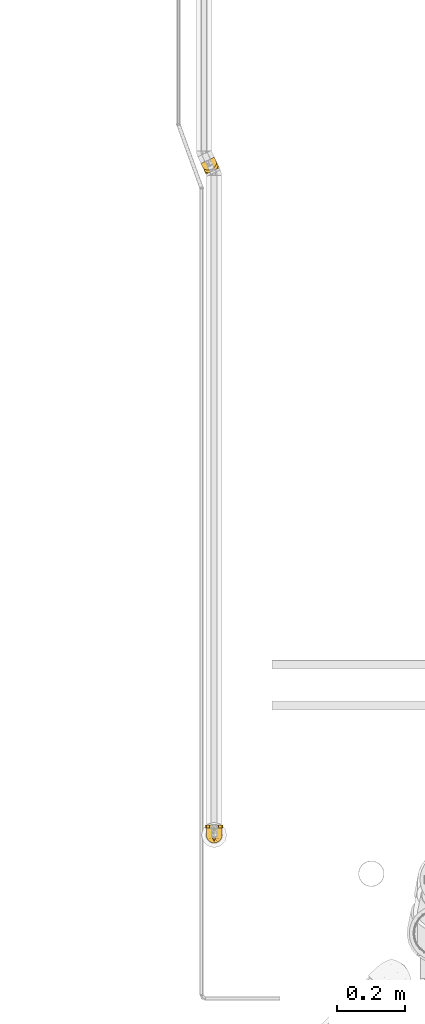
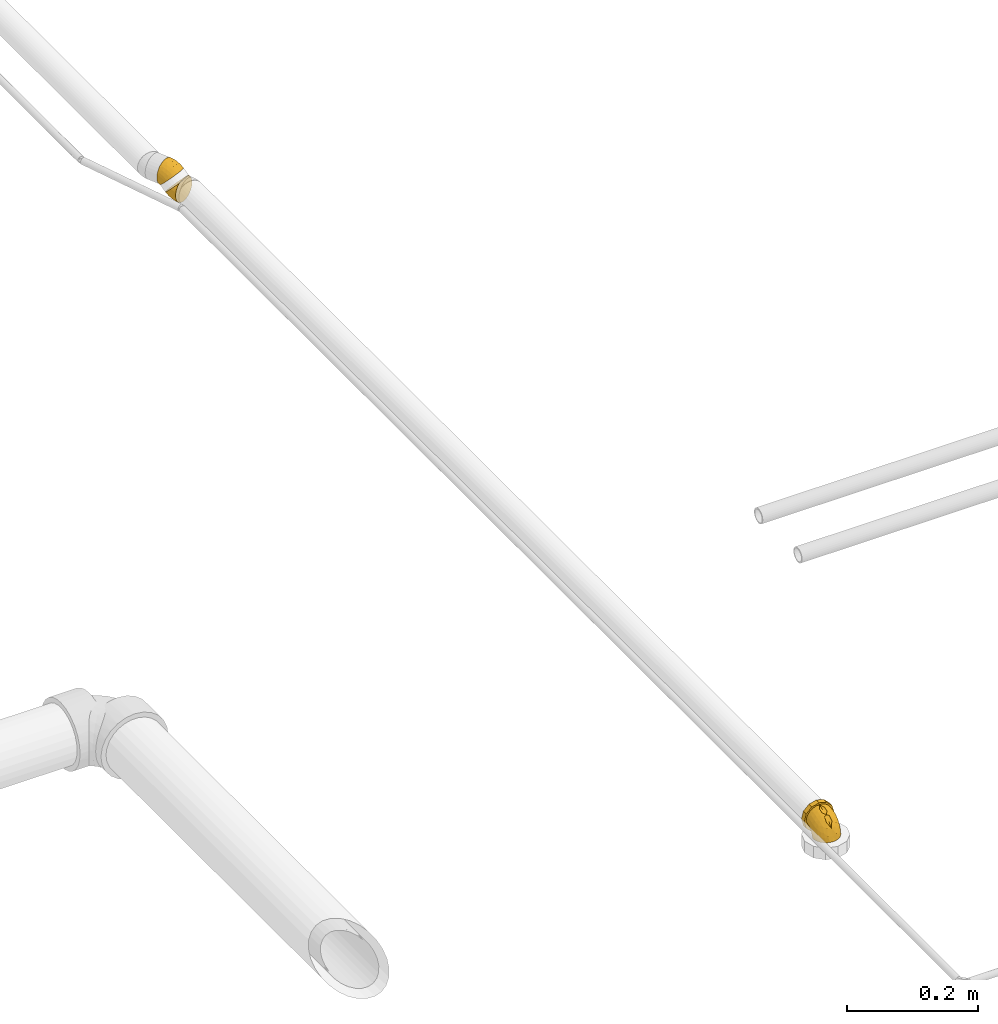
# One storey, part 41 of 156: 4 coverings.
"""IFC2X3 building model written with IfcOpenShell, lengths in millimetres."""

import ifcopenshell
import ifcopenshell.guid

model = None  # the IFC model being written
_history = None  # IfcOwnerHistory: only IFC2X3 demands one
_inside = {}  # id of a spatial element -> (the spatial element, [elements in it])
_under = {}  # id of a project, library or spatial element -> (it, [spatial elements below it])
_declared = {}  # id of a project -> (the project, [libraries it declares])
_typed = {}  # id of a type object -> (the type object, [elements of that type])
_made_of = {}  # id of a material, layer set ... -> (it, [elements and type objects made of it])


def new_model(schema):
    """Start an empty IFC model of exactly this schema.

    Asked for "IFC4X3", IfcOpenShell would pick the latest addendum, in which some entities
    have other attributes; the version numbers below select the first issue.
    IFC2X3 requires an IfcOwnerHistory on every rooted entity: one is made here for all.
    """
    global model, _history
    if schema == "IFC4X3":
        model = ifcopenshell.file(schema_version=(4, 3, 0, 0))
    else:
        model = ifcopenshell.file(schema=schema)
    _inside.clear()
    _under.clear()
    _declared.clear()
    _typed.clear()
    _made_of.clear()
    _history = None
    if model.schema == "IFC2X3":
        org = make("IfcOrganization", Name="unknown")
        user = make(
            "IfcPersonAndOrganization",
            ThePerson=make("IfcPerson", FamilyName="unknown"),
            TheOrganization=org,
        )
        app = make(
            "IfcApplication",
            ApplicationDeveloper=org,
            Version="unknown",
            ApplicationFullName="unknown",
            ApplicationIdentifier="unknown",
        )
        _history = make(
            "IfcOwnerHistory",
            OwningUser=user,
            OwningApplication=app,
            ChangeAction="ADDED",
            CreationDate=0,
        )
    return model


def make(cls, **values):
    """One entity of the class cls with the attributes given. An attribute that is None is left unset."""
    return model.create_entity(
        cls, **{name: value for name, value in values.items() if value is not None}
    )


def entity(cls, *values):
    """Any entity or typed value of the class cls, its attributes in the order of the schema. None: left unset."""
    e = model.create_entity(cls)
    for i, value in enumerate(values):
        if value is not None:
            e[i] = value
    return e


def rooted(cls, **values):
    """An entity with a GlobalId (a new one), such as an element, a storey or a relation."""
    return make(cls, GlobalId=ifcopenshell.guid.new(), OwnerHistory=_history, **values)


def si_unit(unit_type, name, prefix=None):
    """IfcSIUnit, for example si_unit("LENGTHUNIT", "METRE", prefix="MILLI")."""
    return make("IfcSIUnit", UnitType=unit_type, Prefix=prefix, Name=name)


def converted_unit(unit_type, name, factor, base, dimensions=None, offset=None):
    """IfcConversionBasedUnit, such as the inch: factor (a typed value) times the base unit."""
    return make(
        "IfcConversionBasedUnit"
        if offset is None
        else "IfcConversionBasedUnitWithOffset",
        ConversionOffset=offset,
        Dimensions=None
        if dimensions is None
        else entity("IfcDimensionalExponents", *dimensions),
        UnitType=unit_type,
        Name=name,
        ConversionFactor=make(
            "IfcMeasureWithUnit", ValueComponent=factor, UnitComponent=base
        ),
    )


def derived_unit(unit_type, elements):
    """IfcDerivedUnit: a product of units, each with its exponent."""
    return make(
        "IfcDerivedUnit",
        Elements=[
            make("IfcDerivedUnitElement", Unit=unit, Exponent=power)
            for unit, power in elements
        ],
        UnitType=unit_type,
    )


def assignment(units):
    """IfcUnitAssignment: the units of a project."""
    return None if units is None else make("IfcUnitAssignment", Units=units)


def point(xyz):
    """IfcCartesianPoint."""
    return None if xyz is None else make("IfcCartesianPoint", Coordinates=xyz)


def direction(xyz):
    """IfcDirection."""
    return None if xyz is None else make("IfcDirection", DirectionRatios=xyz)


def frame(location, z_axis=None, x_axis=None):
    """IfcAxis2Placement3D, a coordinate frame: its origin and axes. An axis left out is left unset."""
    return make(
        "IfcAxis2Placement3D",
        Location=point(location),
        Axis=direction(z_axis),
        RefDirection=direction(x_axis),
    )


def origin_with_axes():
    """The frame at (0, 0, 0) with the z axis (0, 0, 1) and the x axis (1, 0, 0) written out."""
    return frame((0.0, 0.0, 0.0), z_axis=(0.0, 0.0, 1.0), x_axis=(1.0, 0.0, 0.0))


def place(relative_to, where):
    """IfcLocalPlacement: puts the frame where relative to a parent placement (None: the world)."""
    return make(
        "IfcLocalPlacement", PlacementRelTo=relative_to, RelativePlacement=where
    )


def context(
    kind, dimensions, precision=None, world=None, true_north=None, identifier=None
):
    """IfcGeometricRepresentationContext, for example the 3D "Model" context."""
    return make(
        "IfcGeometricRepresentationContext",
        ContextIdentifier=identifier,
        ContextType=kind,
        CoordinateSpaceDimension=dimensions,
        Precision=precision,
        WorldCoordinateSystem=world,
        TrueNorth=true_north,
    )


def subcontext(parent, identifier, kind, view, scale=None):
    """IfcGeometricRepresentationSubContext, for example "Body" below "Model"."""
    return make(
        "IfcGeometricRepresentationSubContext",
        ContextIdentifier=identifier,
        ContextType=kind,
        ParentContext=parent,
        TargetScale=scale,
        TargetView=view,
    )


def project(units=None, contexts=None):
    """IfcProject with its units and contexts."""
    return rooted(
        "IfcProject",
        Name="project",
        RepresentationContexts=contexts,
        UnitsInContext=assignment(units),
    )


def spatial(cls, under=None, at=None, **own):
    """A site, building, storey or space (cls), placed at a placement, below another one or the project."""
    s = rooted(cls, ObjectPlacement=at, **own)
    if under is not None:
        _under.setdefault(under.id(), (under, []))[1].append(s)
    return s


def faces_of(points, faces, orient=None, outer=None):
    """IfcFace entities. A face is a list of loops; a loop is a list of indices into points, from 0.

    orient and outer hold one flag for each loop. By default every Orientation is true, the
    first loop of a face is its IfcFaceOuterBound and the others are IfcFaceBound.
    """
    made = []
    for i, loops in enumerate(faces):
        bounds = []
        for j, loop in enumerate(loops):
            is_outer = j == 0 if outer is None else outer[i][j]
            bounds.append(
                make(
                    "IfcFaceOuterBound" if is_outer else "IfcFaceBound",
                    Bound=make("IfcPolyLoop", Polygon=[points[k] for k in loop]),
                    Orientation=True if orient is None else orient[i][j],
                )
            )
        made.append(make("IfcFace", Bounds=bounds))
    return made


def open_shell(faces, orient=None, outer=None):
    """The faces of one IfcOpenShell. surface_model builds it on its shared points."""
    return ("IfcOpenShell", faces, orient, outer)


def surface_model(cls, points, shells):
    """IfcFaceBasedSurfaceModel or IfcShellBasedSurfaceModel (cls): surfaces that need not close."""
    shared = [point(p) for p in points]
    made = [make(c, CfsFaces=faces_of(shared, fs, o, b)) for c, fs, o, b in shells]
    if cls == "IfcFaceBasedSurfaceModel":
        return make(cls, FbsmFaces=made)
    return make(cls, SbsmBoundary=made)


def shape(context_of_items, identifier, shape_type, items):
    """IfcShapeRepresentation: the items that make up one representation, for example the "Body"."""
    return make(
        "IfcShapeRepresentation",
        ContextOfItems=context_of_items,
        RepresentationIdentifier=identifier,
        RepresentationType=shape_type,
        Items=items,
    )


def source(mapping_origin, context_of_items, identifier, shape_type, items):
    """IfcRepresentationMap: a shape defined once, which mapped items show again and again."""
    return make(
        "IfcRepresentationMap",
        MappingOrigin=mapping_origin,
        MappedRepresentation=shape(context_of_items, identifier, shape_type, items),
    )


def transform(
    local_origin,
    x_axis=None,
    y_axis=None,
    z_axis=None,
    scale=None,
    scale2=None,
    scale3=None,
    uniform=True,
):
    """IfcCartesianTransformationOperator3D, or its non-uniform kind. x_axis, y_axis, z_axis: its Axis1, 2, 3."""
    if uniform:
        return make(
            "IfcCartesianTransformationOperator3D",
            Axis1=direction(x_axis),
            Axis2=direction(y_axis),
            LocalOrigin=point(local_origin),
            Scale=scale,
            Axis3=direction(z_axis),
        )
    return make(
        "IfcCartesianTransformationOperator3DnonUniform",
        Axis1=direction(x_axis),
        Axis2=direction(y_axis),
        LocalOrigin=point(local_origin),
        Scale=scale,
        Axis3=direction(z_axis),
        Scale2=scale2,
        Scale3=scale3,
    )


def mapped(mapping_source, mapping_target):
    """IfcMappedItem: shows the shape of a source again, moved by a transform."""
    return make(
        "IfcMappedItem", MappingSource=mapping_source, MappingTarget=mapping_target
    )


def made_of(thing, what):
    """Note that an element or type object is made of a material, layer set ...; save() writes the relation."""
    if what is not None:
        _made_of.setdefault(what.id(), (what, []))[1].append(thing)
    return thing


def element(
    cls,
    number,
    at=None,
    inside=None,
    cuts=None,
    type_object=None,
    material=None,
    context=None,
    identifier="Body",
    shape_type=None,
    held_by="IfcProductDefinitionShape",
    body=None,
    shapes=None,
    **own,
):
    """One element of the class cls, such as IfcWall. Its Tag is "e" and its number.

    at: its placement. inside: the storey or other place that contains it. cuts: it is an
    opening in that element (IfcRelVoidsElement). A single representation is given by context,
    identifier, shape_type and body (its items); several are given by shapes. held_by: the class
    of the entity that holds the representations. save() writes the other relations.
    """
    e = rooted(cls, Tag="e%d" % number, ObjectPlacement=at, **own)
    if body is not None:
        shapes = [shape(context, identifier, shape_type, body)]
    if shapes is not None:
        e.Representation = make(held_by, Representations=shapes)
    if inside is not None:
        _inside.setdefault(inside.id(), (inside, []))[1].append(e)
    if cuts is not None:
        rooted(
            "IfcRelVoidsElement", RelatingBuildingElement=cuts, RelatedOpeningElement=e
        )
    if type_object is not None:
        _typed.setdefault(type_object.id(), (type_object, []))[1].append(e)
    return made_of(e, material)


def aggregate(whole, parts):
    """IfcRelAggregates: a whole, such as a stair, and the parts it consists of."""
    return rooted("IfcRelAggregates", RelatingObject=whole, RelatedObjects=parts)


def save(model, path):
    """Write the relations noted so far, then the file.

    IfcRelAggregates (storeys below a building ...), IfcRelContainedInSpatialStructure (elements
    in a storey), IfcRelDefinesByType, IfcRelAssociatesMaterial and IfcRelDeclares: one each for
    every whole, place, type object, material and project.
    """
    for whole, parts in _under.values():
        aggregate(whole, parts)
    for where, things in _inside.values():
        rooted(
            "IfcRelContainedInSpatialStructure",
            RelatedElements=things,
            RelatingStructure=where,
        )
    for kind, things in _typed.values():
        rooted("IfcRelDefinesByType", RelatedObjects=things, RelatingType=kind)
    for what, things in _made_of.values():
        rooted("IfcRelAssociatesMaterial", RelatedObjects=things, RelatingMaterial=what)
    for by, libraries in _declared.values():
        rooted("IfcRelDeclares", RelatingContext=by, RelatedDefinitions=libraries)
    model.write(path)


model = new_model("IFC2X3")

# Units and contexts
model_context = context("Model", 3, precision=0.01, world=frame((0.0, 4.29681676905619e-09, 0.0)), true_north=direction((4.01073788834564e-13, 1.0)))
plan_context = context("Plan", 3, precision=0.01, world=frame((0.0, 4.29681676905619e-09, 0.0)), true_north=direction((4.01073788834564e-13, 1.0)))
body_context = subcontext(model_context, "Body", "Model", "MODEL_VIEW")
ifc_project = project(units=[converted_unit("PLANEANGLEUNIT", "DEGREE", entity("IfcPositiveLengthMeasure", 0.0174532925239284), si_unit("PLANEANGLEUNIT", "RADIAN"), dimensions=[0, 0, 0, 0, 0, 0, 0]), si_unit("AREAUNIT", "SQUARE_METRE"), si_unit("LENGTHUNIT", "METRE", prefix="MILLI"), si_unit("MASSUNIT", "GRAM", prefix="KILO"), si_unit("POWERUNIT", "WATT"), si_unit("PRESSUREUNIT", "PASCAL", prefix="KILO"), si_unit("FORCEUNIT", "NEWTON", prefix="KILO"), si_unit("ELECTRICVOLTAGEUNIT", "VOLT"), si_unit("ELECTRICCURRENTUNIT", "AMPERE"), si_unit("THERMODYNAMICTEMPERATUREUNIT", "DEGREE_CELSIUS"), si_unit("TIMEUNIT", "SECOND"), si_unit("VOLUMEUNIT", "CUBIC_METRE"), derived_unit("LINEARVELOCITYUNIT", [(si_unit("LENGTHUNIT", "METRE"), 1), (si_unit("TIMEUNIT", "SECOND"), -1)]), derived_unit("VOLUMETRICFLOWRATEUNIT", [(si_unit("VOLUMEUNIT", "CUBIC_METRE"), 1), (si_unit("TIMEUNIT", "SECOND"), -1)]), derived_unit("THERMALTRANSMITTANCEUNIT", [(si_unit("POWERUNIT", "WATT"), 1), (si_unit("THERMODYNAMICTEMPERATUREUNIT", "KELVIN"), -1), (si_unit("AREAUNIT", "SQUARE_METRE"), -1)]), derived_unit("SOUNDPRESSUREUNIT", [(si_unit("PRESSUREUNIT", "PASCAL"), 1)])], contexts=[model_context, plan_context])

# Site, building, storey
site_placement = place(None, frame((0.0, -4.29681676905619e-09, 0.0), z_axis=(0.0, 0.0, 1.0), x_axis=(1.0, 0.0, 0.0)))
site = spatial("IfcSite", under=ifc_project, at=site_placement, CompositionType="ELEMENT")
building_placement = place(site_placement, frame((0.0, 4.29681676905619e-09, 0.0), z_axis=(0.0, 0.0, 1.0), x_axis=(1.0, 0.0, 0.0)))
building = spatial("IfcBuilding", under=site, at=building_placement, Name="mc-building", CompositionType="ELEMENT")
storey_placement = place(building_placement, frame((0.0, 0.0, 205200.0), z_axis=(0.0, 0.0, 1.0), x_axis=(1.0, 0.0, 0.0)))
storey = spatial("IfcBuildingStorey", under=building, at=storey_placement, Name="Nivå D + 1,2 m", CompositionType="ELEMENT", Elevation=205200.0)

# Coverings
shared_shape_1 = source(origin_with_axes(), body_context, "Body", "SurfaceModel", [
    surface_model("IfcShellBasedSurfaceModel", [(-20.0, -19.91858, -11.5), (-9.26874, -19.82887, -8.80172), (-20.0, -22.21629, -5.95284), (-20.0, -5.95284, -22.21629), (-20.0, 0.0, -23.0), (-16.41496, 1.48497, -23.0), (-13.65468, -8.09405, -21.24923), (-20.0, -11.5, -19.91858), (-12.89249, -3.31489, -22.58022), (-6.70085, -5.54744, -21.24923), (-9.3934, 4.3934, -23.0), (-8.40397, -1.53584, -22.56356), (-12.92893, 2.92893, -23.0), (-2.33645, -9.57007, -17.8989), (1.35107, -2.02224, -20.37356), (5.84944, -5.42872, -16.26656), (-3.71295, -19.32042, -4.47672), (1.5, -17.23909, 0.0), (-9.25, -20.11955, 0.0), (20.72054, 20.0, -9.98295), (22.42276, 20.0, -5.12054), (20.38887, 9.59257, -7.59956), (-11.15428, -12.83072, -18.24713), (-20.0, -16.26346, -16.26346), (-13.27207, -17.65073, -14.00151), (-5.21752, -15.27493, -14.00151), (6.72059, 13.11537, -21.71042), (2.06499, 5.74718, -22.12945), (-2.96995, 12.82991, -23.0), (9.976, 20.0, -20.72389), (5.11506, 20.0, -22.42401), (-1.48497, 16.41496, -23.0), (12.00789, 2.96118, -16.26638), (15.11355, 10.95279, -16.26656), (16.15527, 4.16125, -12.24034), (9.52462, 7.06609, -19.47678), (11.64594, 13.87434, -19.47678), (18.75309, 12.4988, -12.24034), (-3.86672, 0.34155, -22.34959), (23.0, 20.0, 0.0), (20.80941, 11.8246, 0.0), (15.88875, -1.81723, -6.70843), (17.97933, 20.0, -14.34377), (14.33692, 20.0, -17.98479), (17.23909, -1.5, 0.0), (10.27929, -9.80283, -4.83613), (9.36955, -9.36955, 0.0), (3.4817, -15.56953, -4.15613), (6.95273, 0.5358, -18.80266), (-5.85786, 5.85786, -23.0), (-4.41391, 9.34389, -23.0), (4.11805, -10.73731, -12.85831), (-1.85567, -17.19368, -8.47054), (-11.96561, -21.82224, -4.33914), (10.9026, -5.13731, -11.64298), (0.0, 20.0, -23.0), (-20.0, -23.0, 0.0), (4.93916, -13.17241, -8.16625), (9.52866, 7.05791, 19.47239), (6.72603, 13.11124, 21.70822), (2.06199, 5.73763, 22.12869), (-11.96559, -21.82223, 4.33915), (-9.27214, -19.82979, 8.80172), (-1.85696, -17.19344, 8.47251), (-5.22647, -15.27868, 14.00151), (-13.27736, -17.65168, 14.00151), (6.95709, 0.52669, 18.79641), (1.35532, -2.02495, 20.37099), (-2.96995, 12.82991, 23.0), (-1.48497, 16.41496, 23.0), (-3.86491, 0.33933, 22.34889), (-8.54552, -1.16592, 22.63764), (-6.70085, -5.54744, 21.24923), (12.01274, 2.95786, 16.26053), (15.11892, 10.9488, 16.26035), (-20.0, -16.26346, 16.26346), (-11.15708, -12.83147, 18.24713), (-20.0, -11.5, 19.91858), (-20.0, -19.91858, 11.5), (-20.0, -22.21629, 5.95284), (16.15651, 4.15314, 12.23336), (18.75664, 12.49407, 12.23336), (-13.65468, -8.09405, 21.24923), (-20.0, -5.95284, 22.21629), (11.65224, 13.87011, 19.47239), (14.34377, 20.0, 17.97933), (-2.34066, -9.57555, 17.89684), (15.89516, -1.80999, 6.70281), (20.39055, 9.59026, 7.59326), (-16.41496, 1.48497, 23.0), (-20.0, 0.0, 23.0), (17.98479, 20.0, 14.33692), (22.42401, 20.0, 5.11506), (20.72389, 20.0, 9.976), (9.98295, 20.0, 20.72054), (5.12054, 20.0, 22.42276), (-12.89249, -3.31489, 22.58022), (-12.92893, 2.92893, 23.0), (10.90001, -5.14849, 11.63438), (-5.85786, 5.85786, 23.0), (-4.41391, 9.34389, 23.0), (-9.3934, 4.3934, 23.0), (-3.713, -19.32031, 4.47735), (4.93959, -13.17105, 8.16843), (3.48351, -15.56815, 4.15698), (10.28307, -9.79842, 4.83801), (4.1258, -10.73605, 12.85269), (0.0, 20.0, 23.0), (5.84416, -5.44293, 16.26036)], [open_shell([[[0, 1, 2]], [[3, 4, 5]], [[6, 7, 3]], [[6, 8, 9]], [[10, 11, 12]], [[13, 14, 15]], [[16, 17, 18]], [[19, 20, 21]], [[22, 23, 7]], [[23, 24, 0]], [[0, 24, 1]], [[22, 25, 24]], [[26, 27, 28]], [[29, 26, 30]], [[26, 31, 30]], [[32, 33, 34]], [[25, 22, 13]], [[35, 36, 33]], [[21, 37, 19]], [[29, 36, 26]], [[27, 14, 38]], [[20, 39, 40]], [[35, 33, 32]], [[34, 21, 41]], [[42, 19, 37]], [[33, 43, 42]], [[21, 44, 41]], [[37, 33, 42]], [[45, 44, 46]], [[34, 37, 21]], [[16, 47, 17]], [[36, 29, 43]], [[20, 40, 21]], [[27, 26, 35]], [[44, 21, 40]], [[32, 48, 35]], [[27, 49, 50]], [[6, 22, 7]], [[13, 15, 51]], [[25, 51, 52]], [[1, 16, 53]], [[15, 54, 51]], [[54, 34, 41]], [[46, 47, 45]], [[54, 15, 32]], [[31, 26, 28]], [[31, 55, 30]], [[2, 53, 56]], [[33, 37, 34]], [[33, 36, 43]], [[26, 36, 35]], [[5, 8, 3]], [[22, 6, 9]], [[22, 9, 13]], [[14, 13, 9]], [[9, 8, 11]], [[48, 27, 35]], [[45, 54, 41]], [[47, 46, 17]], [[51, 54, 57]], [[8, 5, 12]], [[38, 10, 49]], [[3, 8, 6]], [[38, 9, 11]], [[12, 11, 8]], [[9, 38, 14]], [[53, 16, 18]], [[52, 16, 1]], [[56, 53, 18]], [[1, 53, 2]], [[54, 32, 34]], [[48, 15, 14]], [[15, 48, 32]], [[27, 48, 14]], [[52, 51, 57]], [[13, 51, 25]], [[22, 24, 23]], [[1, 24, 25]], [[25, 52, 1]], [[47, 52, 57]], [[52, 47, 16]], [[47, 57, 45]], [[54, 45, 57]], [[44, 45, 41]], [[49, 27, 38]], [[50, 28, 27]], [[10, 38, 11]], [[58, 59, 60]], [[56, 18, 61]], [[62, 63, 64]], [[62, 64, 65]], [[66, 60, 67]], [[68, 59, 69]], [[70, 71, 72]], [[73, 74, 58]], [[75, 76, 77]], [[78, 79, 62]], [[74, 80, 81]], [[82, 83, 77]], [[84, 74, 85]], [[64, 86, 76]], [[87, 44, 88]], [[83, 89, 90]], [[74, 91, 85]], [[40, 88, 44]], [[75, 78, 65]], [[88, 92, 93]], [[40, 39, 92]], [[59, 94, 95]], [[94, 84, 85]], [[96, 97, 89]], [[73, 80, 74]], [[98, 87, 80]], [[75, 65, 76]], [[67, 72, 86]], [[81, 88, 93]], [[84, 59, 58]], [[60, 59, 68]], [[93, 91, 81]], [[88, 80, 87]], [[59, 95, 69]], [[40, 92, 88]], [[99, 60, 100]], [[70, 101, 71]], [[18, 17, 102]], [[102, 63, 62]], [[103, 104, 105]], [[106, 103, 98]], [[64, 106, 86]], [[82, 76, 72]], [[80, 73, 98]], [[46, 105, 104]], [[95, 107, 69]], [[18, 102, 61]], [[74, 81, 91]], [[88, 81, 80]], [[59, 84, 94]], [[74, 84, 58]], [[76, 82, 77]], [[96, 83, 82]], [[67, 86, 108]], [[87, 105, 44]], [[72, 76, 86]], [[108, 73, 66]], [[60, 99, 70]], [[106, 98, 108]], [[105, 98, 103]], [[70, 72, 67]], [[83, 96, 89]], [[72, 96, 82]], [[101, 70, 99]], [[96, 71, 97]], [[60, 70, 67]], [[104, 102, 17]], [[61, 62, 79]], [[62, 61, 102]], [[56, 61, 79]], [[66, 73, 58]], [[98, 73, 108]], [[60, 66, 58]], [[108, 66, 67]], [[86, 106, 108]], [[63, 106, 64]], [[62, 65, 78]], [[76, 65, 64]], [[46, 104, 17]], [[63, 104, 103]], [[44, 105, 46]], [[98, 105, 87]], [[104, 63, 102]], [[63, 103, 106]], [[60, 68, 100]], [[97, 71, 101]], [[72, 71, 96]]])]),
])
covering_1_placement = place(storey_placement, frame((323623.87367, 464546.93316, 4190.50902999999), z_axis=(1.0, 0.0, 0.0), x_axis=(0.0, -1.0, 0.0)))
element("IfcCovering", 1, at=covering_1_placement, inside=storey, Name="BI15T - Cellegummi KV 15mm", PredefinedType="INSULATION", context=body_context, shape_type="MappedRepresentation", body=[
    mapped(shared_shape_1, transform((0.0, 0.0, 0.0), scale=1.0)),
])
shared_shape_2 = source(origin_with_axes(), body_context, "Body", "SurfaceModel", [
    surface_model("IfcShellBasedSurfaceModel", [(8.8, 0.0, 26.4), (8.8, -13.2, 22.86307), (8.8, -22.86307, 13.2), (8.8, -13.2, -22.86307), (8.8, 13.2, 22.86307), (8.8, 22.86307, 13.2), (8.8, 26.4, 0.0), (8.8, -26.4, 0.0), (8.8, 22.86307, -13.2), (8.8, 0.0, -26.4), (8.8, 13.2, -22.86307), (8.8, -22.86307, -13.2), (0.0, -13.2, 22.86307), (0.0, 0.0, 26.4), (0.0, 13.2, 22.86307), (0.0, -13.2, -22.86307), (0.0, -22.86307, 13.2), (0.0, -26.4, 0.0), (0.0, 22.86307, 13.2), (0.0, 26.4, 0.0), (0.0, 22.86307, -13.2), (0.0, 13.2, -22.86307), (0.0, -22.86307, -13.2), (0.0, 0.0, -26.4), (0.0, 24.63154, 6.6), (8.8, 24.96546, 5.35378), (0.0, 18.03154, 18.03154), (8.8, 6.6, 24.63154), (0.0, 5.35378, 24.96546), (8.8, 18.03154, 18.03154), (0.0, -6.6, 24.63154), (8.8, -5.35378, 24.96546), (0.0, -18.03154, 18.03154), (8.8, -24.63154, 6.6), (0.0, -24.96546, 5.35378), (8.8, -18.03154, 18.03154), (0.0, -24.63154, -6.6), (8.8, -24.96546, -5.35378), (0.0, -18.03154, -18.03154), (8.8, -6.6, -24.63154), (0.0, -5.35378, -24.96546), (8.8, -18.03154, -18.03154), (0.0, 6.6, -24.63154), (8.8, 5.35378, -24.96546), (0.0, 18.03154, -18.03154), (8.8, 24.63154, -6.6), (0.0, 24.96546, -5.35378), (8.8, 18.03154, -18.03154)], [open_shell([[[0, 1, 2]], [[2, 3, 0]], [[0, 3, 4]], [[5, 4, 6]], [[3, 2, 7]], [[4, 3, 8]], [[8, 3, 9]], [[8, 6, 4]], [[8, 9, 10]], [[7, 11, 3]], [[12, 13, 14]], [[14, 15, 12]], [[16, 15, 17]], [[12, 15, 16]], [[14, 18, 19]], [[14, 20, 15]], [[15, 20, 21]], [[15, 22, 17]], [[15, 21, 23]], [[14, 19, 20]], [[5, 24, 18]], [[19, 25, 6]], [[25, 19, 24]], [[4, 26, 14]], [[14, 27, 4]], [[27, 14, 28]], [[26, 4, 29]], [[28, 0, 27]], [[29, 5, 18]], [[29, 18, 26]], [[28, 13, 0]], [[5, 25, 24]], [[1, 30, 12]], [[13, 31, 0]], [[31, 13, 30]], [[2, 32, 16]], [[16, 33, 2]], [[33, 16, 34]], [[32, 2, 35]], [[34, 7, 33]], [[35, 1, 12]], [[35, 12, 32]], [[34, 17, 7]], [[1, 31, 30]], [[11, 36, 22]], [[17, 37, 7]], [[37, 17, 36]], [[3, 38, 15]], [[15, 39, 3]], [[39, 15, 40]], [[38, 3, 41]], [[40, 9, 39]], [[41, 11, 22]], [[41, 22, 38]], [[40, 23, 9]], [[11, 37, 36]], [[10, 42, 21]], [[23, 43, 9]], [[43, 23, 42]], [[8, 44, 20]], [[20, 45, 8]], [[45, 20, 46]], [[44, 8, 47]], [[46, 6, 45]], [[47, 10, 21]], [[47, 21, 44]], [[46, 19, 6]], [[10, 43, 42]]])]),
])
covering_2_placement = place(storey_placement, frame((323623.87367, 464566.93316, 4190.50902999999), z_axis=(0.0, 0.0, 1.0), x_axis=(0.0, 1.0, 0.0)))
element("IfcCovering", 2, at=covering_2_placement, inside=storey, Name="BI15T - Cellegummi KV 15mm", PredefinedType="INSULATION", context=body_context, shape_type="MappedRepresentation", body=[
    mapped(shared_shape_2, transform((0.0, 0.0, 0.0), scale=1.0)),
])
shared_shape_3 = source(origin_with_axes(), body_context, "Body", "SurfaceModel", [
    surface_model("IfcShellBasedSurfaceModel", [(-7.45584, 17.87261, -12.82848), (-7.45584, 14.36004, -16.66701), (-7.45584, 5.16662, -21.38472), (-7.45584, 0.0, 22.0), (-7.45584, 10.04424, -19.57328), (-7.45584, -21.25037, -5.69402), (-7.45584, 14.36004, 16.66701), (-7.45584, 17.87261, 12.82848), (-7.45584, 10.04424, 19.57328), (-7.45584, 5.16662, 21.38472), (-7.45584, 0.0, -22.0), (-7.45584, -5.69402, -21.25037), (-7.45584, -11.0, -19.05256), (-7.45584, -15.55635, -15.55635), (-7.45584, -19.05256, -11.0), (-7.45584, -11.0, 19.05256), (-7.45584, -19.05256, 11.0), (-7.45584, -15.55635, 15.55635), (-7.45584, -5.69402, 21.25037), (-7.45584, -21.25037, 5.69402), (-7.45584, -22.0, 0.0), (1.61873, 8.92543, -21.38472), (-4.882, 15.42616, -16.66701), (-7.36577, 17.90992, -12.82848), (5.27208, 5.27208, 22.0), (-1.83027, 12.37443, -19.57328), (9.29836, 1.2458, 21.25037), (-1.83027, 12.37443, 19.57328), (-7.36577, 17.90992, 12.82848), (-4.882, 15.42616, 16.66701), (1.61873, 8.92543, 21.38472), (5.27208, 5.27208, -22.0), (20.29836, -9.7542, -5.69402), (13.05025, -2.5061, -19.05256), (9.29836, 1.2458, -21.25037), (18.74427, -8.20012, -11.0), (16.27208, -5.72792, -15.55635), (13.05025, -2.5061, 19.05256), (16.27208, -5.72792, 15.55635), (18.74427, -8.20012, 11.0), (20.29836, -9.7542, 5.69402), (20.82843, -10.28427, 0.0), (-0.56754, 1.37017, -22.0), (1.85646, -19.17679, -8.41903), (-1.29936, -16.91515, -13.39275), (0.17197, -12.45195, -17.45377), (-0.94967, -3.21577, -21.59712), (4.10988, -1.03604, -21.58082), (2.11942, -6.62275, -20.32535), (8.24053, -9.18692, -17.45377), (-3.90513, 0.70628, -22.0), (6.11173, -14.75501, -13.39275), (4.15777, -19.87044, -4.11783), (11.70683, -15.19073, -8.41903), (11.62573, -16.71032, -4.12664), (12.87961, -11.04203, -13.39275), (0.43464, -20.43048, 0.0), (7.85149, -18.95518, 0.0), (7.52492, -4.25941, -20.14976), (-2.94409, -7.12714, -20.67158), (14.1392, -14.75387, 0.0), (2.35227, 3.32112, -22.0), (14.71262, -14.76687, 4.37077), (4.15997, -19.87761, 4.07826), (-1.29936, -16.91515, 13.39275), (2.46349, -19.01945, 8.41903), (6.11173, -14.75501, 13.39275), (0.17197, -12.45195, 17.45377), (12.87961, -11.04203, 13.39275), (2.11942, -6.62275, 20.32535), (-0.94967, -3.21577, 21.59712), (-2.94409, -7.12714, 20.67158), (8.24053, -9.18692, 17.45377), (7.52492, -4.25941, 20.14976), (4.10988, -1.03604, 21.58082), (12.24732, -14.87275, 8.41903), (-0.56754, 1.37017, 22.0), (-3.90513, 0.70628, 22.0), (2.35227, 3.32112, 22.0), (-6.53881, 17.00096, 14.19611)], [open_shell([[[0, 1, 2]], [[0, 2, 3]], [[2, 1, 4]], [[5, 3, 2]], [[6, 7, 8]], [[8, 3, 9]], [[8, 7, 0]], [[0, 3, 8]], [[2, 10, 11]], [[12, 5, 2]], [[13, 14, 5]], [[13, 5, 12]], [[5, 15, 3]], [[15, 16, 17]], [[18, 3, 15]], [[5, 19, 16]], [[16, 15, 5]], [[19, 5, 20]], [[11, 12, 2]], [[21, 22, 23]], [[24, 21, 23]], [[25, 22, 21]], [[21, 24, 26]], [[27, 28, 29]], [[30, 24, 27]], [[23, 28, 27]], [[27, 24, 23]], [[26, 31, 21]], [[32, 33, 34]], [[32, 35, 36]], [[33, 32, 36]], [[37, 32, 34]], [[38, 39, 37]], [[34, 26, 37]], [[39, 40, 32]], [[32, 37, 39]], [[41, 32, 40]], [[31, 26, 34]], [[21, 2, 4]], [[10, 2, 42]], [[21, 42, 2]], [[4, 1, 25]], [[22, 25, 1]], [[31, 42, 21]], [[4, 25, 21]], [[23, 22, 1]], [[43, 14, 44]], [[45, 13, 12]], [[46, 47, 48]], [[49, 45, 48]], [[46, 11, 50]], [[51, 44, 45]], [[52, 5, 43]], [[53, 54, 52]], [[43, 51, 53]], [[43, 5, 14]], [[36, 35, 55]], [[5, 52, 56]], [[42, 46, 50]], [[56, 52, 57]], [[49, 36, 55]], [[47, 58, 48]], [[45, 12, 59]], [[34, 47, 31]], [[51, 45, 49]], [[58, 49, 48]], [[35, 32, 53]], [[14, 13, 44]], [[52, 54, 57]], [[49, 33, 36]], [[60, 54, 32]], [[53, 51, 55]], [[53, 52, 43]], [[11, 46, 59]], [[32, 41, 60]], [[56, 20, 5]], [[11, 10, 50]], [[47, 46, 42]], [[46, 48, 59]], [[47, 42, 61]], [[34, 33, 58]], [[45, 59, 48]], [[12, 11, 59]], [[34, 58, 47]], [[49, 58, 33]], [[45, 44, 13]], [[43, 44, 51]], [[53, 55, 35]], [[49, 55, 51]], [[32, 54, 53]], [[57, 54, 60]], [[31, 47, 61]], [[62, 57, 60]], [[57, 63, 56]], [[16, 64, 17]], [[65, 66, 64]], [[67, 17, 64]], [[39, 38, 68]], [[69, 70, 71]], [[69, 67, 72]], [[67, 66, 72]], [[73, 26, 74]], [[71, 67, 69]], [[18, 71, 70]], [[75, 40, 39]], [[62, 41, 40]], [[66, 68, 72]], [[16, 19, 65]], [[15, 17, 67]], [[65, 75, 66]], [[38, 37, 72]], [[19, 56, 63]], [[74, 76, 70]], [[18, 70, 77]], [[74, 24, 78]], [[75, 65, 63]], [[73, 72, 37]], [[75, 39, 68]], [[75, 62, 40]], [[77, 70, 76]], [[19, 63, 65]], [[19, 20, 56]], [[62, 63, 57]], [[77, 3, 18]], [[69, 73, 74]], [[69, 74, 70]], [[24, 74, 26]], [[18, 15, 71]], [[67, 71, 15]], [[72, 73, 69]], [[26, 73, 37]], [[65, 64, 16]], [[67, 64, 66]], [[72, 68, 38]], [[75, 68, 66]], [[63, 62, 75]], [[41, 62, 60]], [[78, 76, 74]], [[8, 9, 27]], [[29, 6, 8]], [[7, 6, 79]], [[3, 76, 9]], [[76, 24, 30]], [[29, 8, 27]], [[9, 30, 27]], [[9, 76, 30]], [[6, 29, 79]]])]),
])
covering_3_placement = place(storey_placement, frame((323616.35088, 466502.96036, 4190.50902999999), z_axis=(0.906307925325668, 0.422617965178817, 0.0), x_axis=(-0.422617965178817, 0.906307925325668, 0.0)))
element("IfcCovering", 3, at=covering_3_placement, inside=storey, Name="BI15T - Cellegummi KV 15mm", PredefinedType="INSULATION", context=body_context, shape_type="MappedRepresentation", body=[
    mapped(shared_shape_3, transform((0.0, 0.0, 0.0), scale=1.0)),
])
shared_shape_4 = source(origin_with_axes(), body_context, "Body", "SurfaceModel", [
    surface_model("IfcShellBasedSurfaceModel", [(-7.45584, 14.36004, 16.66701), (-7.45584, 17.87261, 12.82848), (-7.45584, 10.04424, 19.57328), (-1.83027, 12.37443, 19.57328), (-7.36577, 17.90992, 12.82848), (-4.882, 15.42616, 16.66701), (1.61873, 8.92543, -21.38472), (-7.45584, 5.16662, -21.38472), (-7.45584, 10.04424, -19.57328), (-7.45584, 0.0, -22.0), (-0.56754, 1.37017, -22.0), (-7.45584, 14.36004, -16.66701), (-1.83027, 12.37443, -19.57328), (-4.882, 15.42616, -16.66701), (5.27208, 5.27208, -22.0), (-7.36577, 17.90992, -12.82848), (1.85646, -19.17679, -8.41903), (-7.45584, -19.05256, -11.0), (-1.29936, -16.91515, -13.39275), (0.17197, -12.45195, -17.45377), (-7.45584, -15.55635, -15.55635), (-7.45584, -11.0, -19.05256), (-0.94967, -3.21577, -21.59712), (4.10988, -1.03604, -21.58082), (2.11942, -6.62275, -20.32535), (8.24053, -9.18692, -17.45377), (-7.45584, -5.69402, -21.25037), (-3.90513, 0.70628, -22.0), (6.11173, -14.75501, -13.39275), (4.15777, -19.87044, -4.11783), (-7.45584, -21.25037, -5.69402), (11.70683, -15.19073, -8.41903), (11.62573, -16.71032, -4.12664), (16.27208, -5.72792, -15.55635), (18.74427, -8.20012, -11.0), (12.87961, -11.04203, -13.39275), (0.43464, -20.43048, 0.0), (7.85149, -18.95518, 0.0), (7.52492, -4.25941, -20.14976), (-2.94409, -7.12714, -20.67158), (9.29836, 1.2458, -21.25037), (20.29836, -9.7542, -5.69402), (13.05025, -2.5061, -19.05256), (14.1392, -14.75387, 0.0), (20.82843, -10.28427, 0.0), (-7.45584, -22.0, 0.0), (2.35227, 3.32112, -22.0), (14.71262, -14.76687, 4.37077), (4.15997, -19.87761, 4.07826), (-7.45584, -19.05256, 11.0), (-1.29936, -16.91515, 13.39275), (-7.45584, -15.55635, 15.55635), (2.46349, -19.01945, 8.41903), (6.11173, -14.75501, 13.39275), (0.17197, -12.45195, 17.45377), (18.74427, -8.20012, 11.0), (16.27208, -5.72792, 15.55635), (12.87961, -11.04203, 13.39275), (2.11942, -6.62275, 20.32535), (-0.94967, -3.21577, 21.59712), (-2.94409, -7.12714, 20.67158), (8.24053, -9.18692, 17.45377), (7.52492, -4.25941, 20.14976), (9.29836, 1.2458, 21.25037), (4.10988, -1.03604, 21.58082), (-7.45584, -5.69402, 21.25037), (12.24732, -14.87275, 8.41903), (20.29836, -9.7542, 5.69402), (-7.45584, -21.25037, 5.69402), (-7.45584, -11.0, 19.05256), (13.05025, -2.5061, 19.05256), (-0.56754, 1.37017, 22.0), (-3.90513, 0.70628, 22.0), (5.27208, 5.27208, 22.0), (2.35227, 3.32112, 22.0), (-7.45584, 0.0, 22.0), (-7.45584, 5.16662, 21.38472), (-6.53881, 17.00096, 14.19611), (1.61873, 8.92543, 21.38472), (-7.45584, 17.87261, -12.82848)], [open_shell([[[0, 1, 2]], [[3, 4, 5]], [[6, 7, 8]], [[9, 7, 10]], [[6, 10, 7]], [[8, 11, 12]], [[13, 12, 11]], [[14, 10, 6]], [[8, 12, 6]], [[15, 13, 11]], [[16, 17, 18]], [[19, 20, 21]], [[22, 23, 24]], [[25, 19, 24]], [[22, 26, 27]], [[28, 18, 19]], [[29, 30, 16]], [[31, 32, 29]], [[16, 28, 31]], [[16, 30, 17]], [[33, 34, 35]], [[30, 29, 36]], [[10, 22, 27]], [[36, 29, 37]], [[25, 33, 35]], [[23, 38, 24]], [[19, 21, 39]], [[40, 23, 14]], [[28, 19, 25]], [[38, 25, 24]], [[34, 41, 31]], [[17, 20, 18]], [[29, 32, 37]], [[25, 42, 33]], [[43, 32, 41]], [[31, 28, 35]], [[31, 29, 16]], [[26, 22, 39]], [[41, 44, 43]], [[36, 45, 30]], [[26, 9, 27]], [[23, 22, 10]], [[22, 24, 39]], [[23, 10, 46]], [[40, 42, 38]], [[19, 39, 24]], [[21, 26, 39]], [[40, 38, 23]], [[25, 38, 42]], [[19, 18, 20]], [[16, 18, 28]], [[31, 35, 34]], [[25, 35, 28]], [[41, 32, 31]], [[37, 32, 43]], [[14, 23, 46]], [[47, 37, 43]], [[37, 48, 36]], [[49, 50, 51]], [[52, 53, 50]], [[54, 51, 50]], [[55, 56, 57]], [[58, 59, 60]], [[58, 54, 61]], [[54, 53, 61]], [[62, 63, 64]], [[60, 54, 58]], [[65, 60, 59]], [[66, 67, 55]], [[47, 44, 67]], [[53, 57, 61]], [[49, 68, 52]], [[69, 51, 54]], [[52, 66, 53]], [[56, 70, 61]], [[68, 36, 48]], [[64, 71, 59]], [[65, 59, 72]], [[64, 73, 74]], [[66, 52, 48]], [[62, 61, 70]], [[66, 55, 57]], [[66, 47, 67]], [[72, 59, 71]], [[68, 48, 52]], [[68, 45, 36]], [[47, 48, 37]], [[72, 75, 65]], [[58, 62, 64]], [[58, 64, 59]], [[73, 64, 63]], [[65, 69, 60]], [[54, 60, 69]], [[61, 62, 58]], [[63, 62, 70]], [[52, 50, 49]], [[54, 50, 53]], [[61, 57, 56]], [[66, 57, 53]], [[48, 47, 66]], [[44, 47, 43]], [[74, 71, 64]], [[2, 76, 3]], [[5, 0, 2]], [[1, 0, 77]], [[75, 71, 76]], [[71, 73, 78]], [[5, 2, 3]], [[76, 78, 3]], [[76, 71, 78]], [[0, 5, 77]], [[65, 75, 79]], [[8, 49, 11]], [[51, 79, 11]], [[68, 8, 7]], [[1, 76, 2]], [[76, 1, 75]], [[1, 79, 75]], [[7, 9, 45]], [[26, 21, 17]], [[17, 30, 26]], [[17, 21, 20]], [[30, 45, 9]], [[51, 69, 79]], [[65, 79, 69]], [[68, 49, 8]], [[51, 11, 49]], [[45, 68, 7]], [[26, 30, 9]], [[15, 73, 63]], [[13, 55, 12]], [[13, 15, 56]], [[6, 12, 67]], [[3, 78, 4]], [[73, 4, 78]], [[73, 15, 4]], [[44, 14, 6]], [[34, 42, 40]], [[40, 41, 34]], [[33, 42, 34]], [[14, 44, 41]], [[15, 70, 56]], [[70, 15, 63]], [[12, 55, 67]], [[55, 13, 56]], [[6, 67, 44]], [[14, 41, 40]]])]),
])
covering_4_placement = place(storey_placement, frame((323607.89851, 466521.08651, 4210.50902999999), z_axis=(-0.906307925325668, -0.422617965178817, -5.55111512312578e-17), x_axis=(-0.298835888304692, 0.640856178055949, 0.707107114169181)))
element("IfcCovering", 4, at=covering_4_placement, inside=storey, Name="BI15T - Cellegummi KV 15mm", PredefinedType="INSULATION", context=body_context, shape_type="MappedRepresentation", body=[
    mapped(shared_shape_4, transform((0.0, 0.0, 0.0), scale=1.0)),
])

save(model, "model.ifc")
